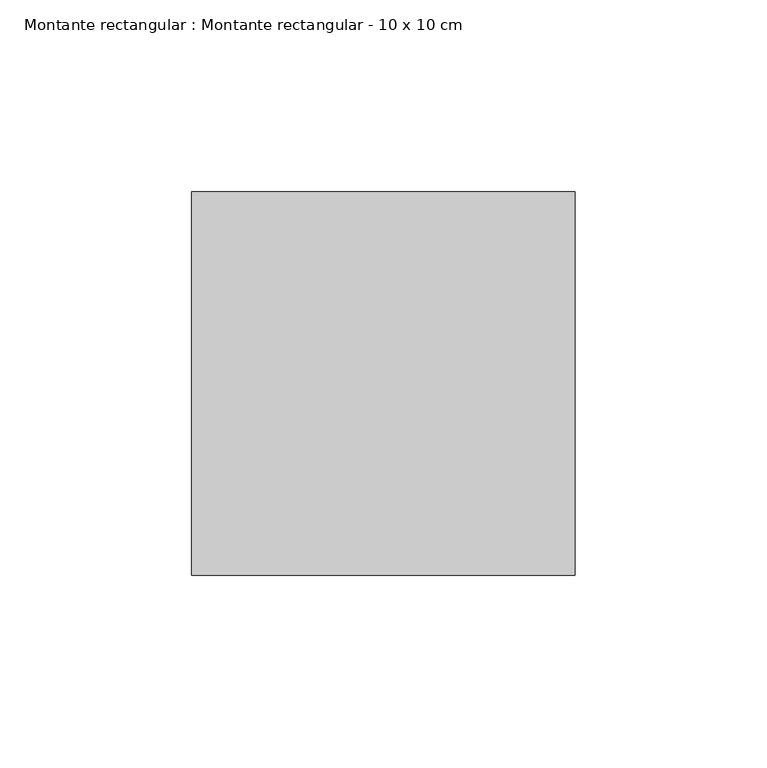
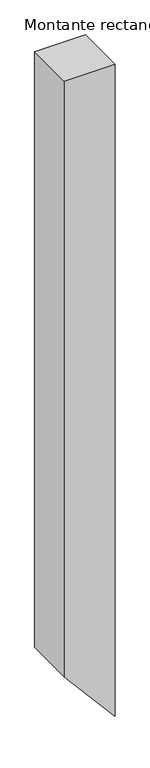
"""IFC4 building model written with IfcOpenShell, lengths in millimetres: member geometry, Montante rectangular : Montante rectangular - 10 x 10 cm."""

from ifc_helpers import new_model, si_unit, frame, origin, place, context, project, spatial, polyline, outline, extrude, source, transform, mapped, element, save


def montante_rectangular_montante_rectangular_10_x_10_cm_7f4e9e92(model_context):
    return source(origin(), model_context, "Body", "SweptSolid", [
        extrude(outline(polyline([(0.0, 0.0), (0.0, -100.0), (-1235.4393727, -100.0), (-1352.7508091, 0.0), (0.0, 0.0)])), frame((0.0, -50.0, 0.0), z_axis=(0.0, 1.0, 0.0), x_axis=(0.0, 0.0, 1.0)), (0.0, 0.0, 1.0), 100.0),
    ])


if __name__ == "__main__":
    model = new_model("IFC4")
    model_context = context("Model", 3, world=origin())
    ifc_project = project(units=[si_unit("LENGTHUNIT", "METRE", prefix="MILLI")], contexts=[model_context])
    site = spatial("IfcSite", under=ifc_project)
    building = spatial("IfcBuilding", under=site)
    placement = place(None, origin())
    montante_rectangular_montante_rectangular_10_x_10_cm_shape = montante_rectangular_montante_rectangular_10_x_10_cm_7f4e9e92(model_context)
    element("IfcMember", 1, ObjectType="Montante rectangular : Montante rectangular - 10 x 10 cm", at=placement, inside=building, context=model_context, shape_type="MappedRepresentation", body=[
        mapped(montante_rectangular_montante_rectangular_10_x_10_cm_shape, transform((0.0, 0.0, 0.0), x_axis=(1.0, 0.0, 0.0), y_axis=(0.0, 1.0, 0.0), z_axis=(0.0, 0.0, 1.0))),
    ])
    save(model, "model.ifc")
